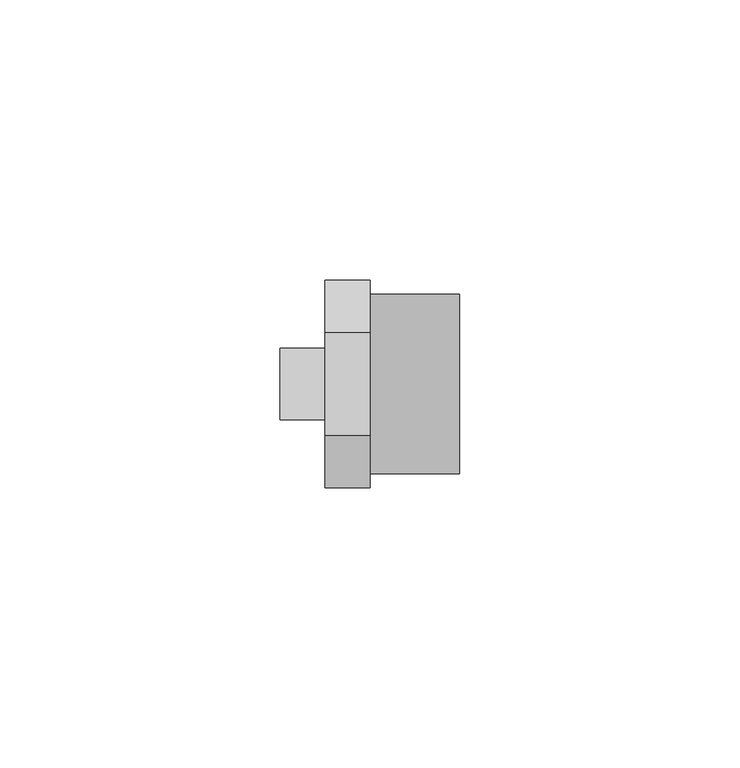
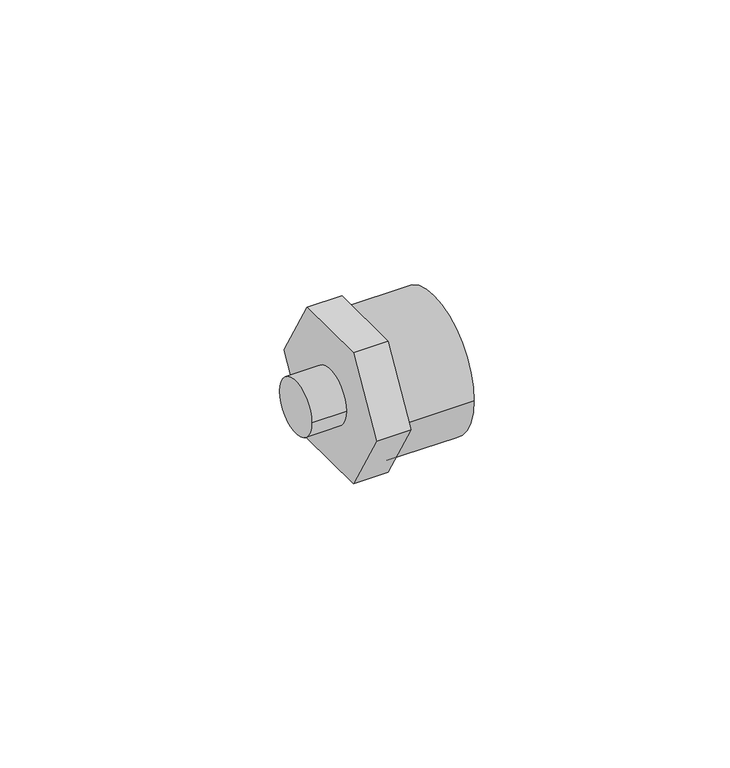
"""IFC4 building model written with IfcOpenShell, lengths in millimetres: pipe fitting geometry."""

from ifc_helpers import new_model, si_unit, point, frame, origin, origin_2d, place, context, project, spatial, polyline, circle_curve, trimmed, segment, composite_curve, outline, extrude, source, transform, mapped, element, save


def pipe_fitting_354d60ef(model_context):
    return source(origin(), model_context, "Body", "SweptSolid", [
        extrude(outline(composite_curve([segment(trimmed(circle_curve(origin_2d(), 6.4), [point((6.4, 0.0))], [point((-6.4, 0.0))], False, "CARTESIAN"), True, "CONTINUOUS"), segment(trimmed(circle_curve(origin_2d(), 6.4), [point((-6.4, 0.0))], [point((6.4, 0.0))], False, "CARTESIAN"), True, "CONTINUOUS")], self_intersect=False)), frame((0.0, 0.0, 0.0), z_axis=(1.0, 0.0, 0.0), x_axis=(0.0, 1.0, 0.0)), (0.0, 0.0, 1.0), 8.0),
        extrude(outline(polyline([(-9.2376043, 16.0), (9.2376043, 16.0), (18.4752086, 0.0), (9.2376043, -16.0), (-9.2376043, -16.0), (-18.4752086, 0.0), (-9.2376043, 16.0)])), frame((8.0, 0.0, 0.0), z_axis=(1.0, 0.0, 0.0), x_axis=(0.0, 1.0, 0.0)), (0.0, 0.0, 1.0), 8.0),
        extrude(outline(composite_curve([segment(trimmed(circle_curve(origin_2d(), 16.0), [point((-16.0, 0.0))], [point((16.0, 0.0))], False, "CARTESIAN"), True, "CONTINUOUS"), segment(trimmed(circle_curve(origin_2d(), 16.0), [point((16.0, 0.0))], [point((-16.0, 0.0))], False, "CARTESIAN"), True, "CONTINUOUS")], self_intersect=False)), frame((16.0, 0.0, 0.0), z_axis=(1.0, 0.0, 0.0), x_axis=(0.0, 1.0, 0.0)), (0.0, 0.0, 1.0), 16.0),
    ])


if __name__ == "__main__":
    model = new_model("IFC4")
    model_context = context("Model", 3, world=origin())
    ifc_project = project(units=[si_unit("LENGTHUNIT", "METRE", prefix="MILLI")], contexts=[model_context])
    site = spatial("IfcSite", under=ifc_project)
    building = spatial("IfcBuilding", under=site)
    placement = place(None, origin())
    pipe_fitting_shape = pipe_fitting_354d60ef(model_context)
    element("IfcPipeFitting", 1, at=placement, inside=building, context=model_context, shape_type="MappedRepresentation", body=[
        mapped(pipe_fitting_shape, transform((0.0, 0.0, 0.0), x_axis=(1.0, 0.0, 0.0), y_axis=(0.0, 1.0, 0.0), z_axis=(0.0, 0.0, 1.0))),
    ])
    save(model, "model.ifc")
